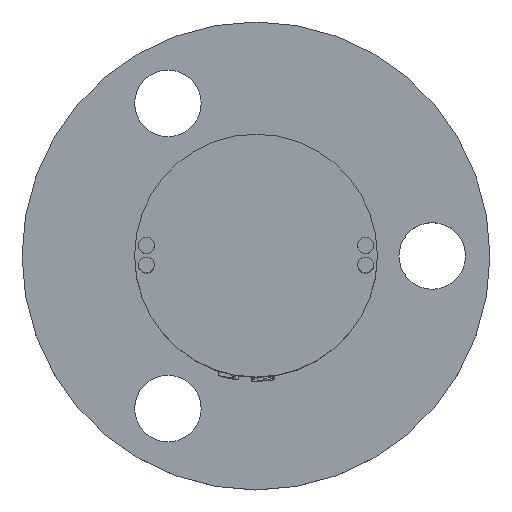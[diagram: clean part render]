
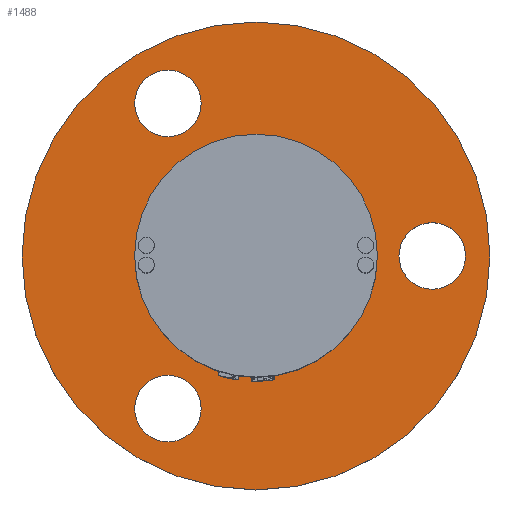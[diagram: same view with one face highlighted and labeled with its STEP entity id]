
A CAD part, top view. The second image highlights one B-rep face of the part: STEP entity #1488.
In plain terms, the highlighted planar face has unit normal (0, 0, 1).
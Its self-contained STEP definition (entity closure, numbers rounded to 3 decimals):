
#126=FACE_BOUND('',#2796,.T.);
#127=FACE_BOUND('',#2797,.T.);
#128=FACE_BOUND('',#2798,.T.);
#129=FACE_BOUND('',#2799,.T.);
#130=FACE_BOUND('',#2800,.T.);
#229=CIRCLE('',#10451,6.2);
#230=CIRCLE('',#10453,1.7);
#231=CIRCLE('',#10454,1.7);
#232=CIRCLE('',#10455,1.7);
#233=CIRCLE('',#10456,11.95);
#1488=ADVANCED_FACE('',(#126,#127,#128,#129,#130),#1802,.T.);
#1802=PLANE('',#10457);
#2796=EDGE_LOOP('',(#5130));
#2797=EDGE_LOOP('',(#5131));
#2798=EDGE_LOOP('',(#5132));
#2799=EDGE_LOOP('',(#5133));
#2800=EDGE_LOOP('',(#5134));
#5130=ORIENTED_EDGE('',*,*,#8324,.F.);
#5131=ORIENTED_EDGE('',*,*,#8325,.F.);
#5132=ORIENTED_EDGE('',*,*,#8326,.F.);
#5133=ORIENTED_EDGE('',*,*,#8327,.F.);
#5134=ORIENTED_EDGE('',*,*,#8328,.F.);
#6900=VERTEX_POINT('',#21022);
#6901=VERTEX_POINT('',#21025);
#6902=VERTEX_POINT('',#21027);
#6903=VERTEX_POINT('',#21029);
#6904=VERTEX_POINT('',#21031);
#8324=EDGE_CURVE('',#6900,#6900,#229,.T.);
#8325=EDGE_CURVE('',#6901,#6901,#230,.T.);
#8326=EDGE_CURVE('',#6902,#6902,#231,.T.);
#8327=EDGE_CURVE('',#6903,#6903,#232,.T.);
#8328=EDGE_CURVE('',#6904,#6904,#233,.T.);
#10451=AXIS2_PLACEMENT_3D('',#21021,#11465,#11466);
#10453=AXIS2_PLACEMENT_3D('',#21024,#11469,#11470);
#10454=AXIS2_PLACEMENT_3D('',#21026,#11471,#11472);
#10455=AXIS2_PLACEMENT_3D('',#21028,#11473,#11474);
#10456=AXIS2_PLACEMENT_3D('',#21030,#11475,#11476);
#10457=AXIS2_PLACEMENT_3D('',#21032,#11477,#11478);
#11465=DIRECTION('',(0.,0.,1.));
#11466=DIRECTION('',(1.,0.,0.));
#11469=DIRECTION('',(0.,0.,1.));
#11470=DIRECTION('',(1.,0.,0.));
#11471=DIRECTION('',(0.,0.,1.));
#11472=DIRECTION('',(1.,0.,0.));
#11473=DIRECTION('',(0.,0.,1.));
#11474=DIRECTION('',(1.,0.,0.));
#11475=DIRECTION('',(0.,0.,-1.));
#11476=DIRECTION('',(1.,0.,0.));
#11477=DIRECTION('',(0.,0.,1.));
#11478=DIRECTION('',(1.,0.,0.));
#21021=CARTESIAN_POINT('',(0.,0.,5.5));
#21022=CARTESIAN_POINT('',(6.2,0.,5.5));
#21024=CARTESIAN_POINT('',(9.,0.,5.5));
#21025=CARTESIAN_POINT('',(10.7,0.,5.5));
#21026=CARTESIAN_POINT('',(-4.5,7.794,5.5));
#21027=CARTESIAN_POINT('',(-2.8,7.794,5.5));
#21028=CARTESIAN_POINT('',(-4.5,-7.794,5.5));
#21029=CARTESIAN_POINT('',(-2.8,-7.794,5.5));
#21030=CARTESIAN_POINT('',(0.,0.,5.5));
#21031=CARTESIAN_POINT('',(11.95,0.,5.5));
#21032=CARTESIAN_POINT('',(0.,0.,5.5));
